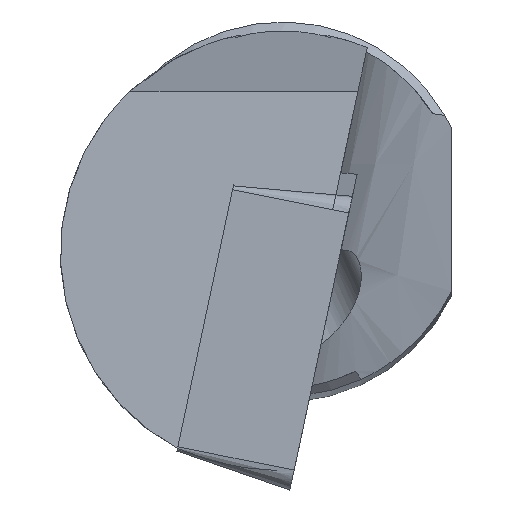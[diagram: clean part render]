
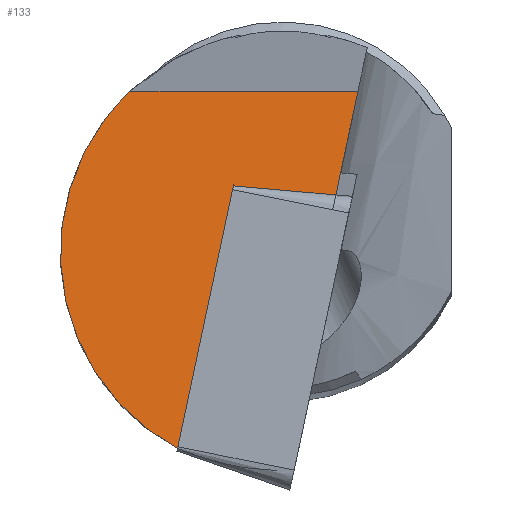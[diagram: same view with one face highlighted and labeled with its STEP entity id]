
A CAD part, top view. The second image highlights one B-rep face of the part: STEP entity #133.
In plain terms, the highlighted planar face has unit normal (0, 0.087, 0.996).
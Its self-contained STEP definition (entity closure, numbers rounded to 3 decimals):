
#47=ELLIPSE('',#538,5.58,5.558);
#49=ELLIPSE('',#542,4.764,4.746);
#133=ADVANCED_FACE('',(#173),#154,.F.);
#154=PLANE('',#543);
#173=FACE_OUTER_BOUND('',#196,.T.);
#196=EDGE_LOOP('',(#287,#288,#289,#290));
#287=ORIENTED_EDGE('',*,*,#428,.T.);
#288=ORIENTED_EDGE('',*,*,#431,.F.);
#289=ORIENTED_EDGE('',*,*,#439,.T.);
#290=ORIENTED_EDGE('',*,*,#440,.F.);
#374=VERTEX_POINT('',#791);
#375=VERTEX_POINT('',#792);
#376=VERTEX_POINT('',#808);
#382=VERTEX_POINT('',#823);
#428=EDGE_CURVE('',#374,#375,#47,.T.);
#431=EDGE_CURVE('',#376,#375,#478,.T.);
#439=EDGE_CURVE('',#376,#382,#485,.T.);
#440=EDGE_CURVE('',#374,#382,#49,.T.);
#478=LINE('',#807,#504);
#485=LINE('',#822,#511);
#504=VECTOR('',#635,1.);
#511=VECTOR('',#646,1.);
#538=AXIS2_PLACEMENT_3D('',#790,#631,#632);
#542=AXIS2_PLACEMENT_3D('',#824,#647,#648);
#543=AXIS2_PLACEMENT_3D('',#825,#649,#650);
#631=DIRECTION('',(0.,0.087,0.996));
#632=DIRECTION('',(0.,-0.996,0.087));
#635=DIRECTION('',(-0.207,-0.975,0.085));
#646=DIRECTION('',(-1.,0.,0.));
#647=DIRECTION('',(0.,-0.087,-0.996));
#648=DIRECTION('',(0.,-0.996,0.087));
#649=DIRECTION('',(0.,-0.087,-0.996));
#650=DIRECTION('',(0.,0.996,-0.087));
#790=CARTESIAN_POINT('',(0.,-0.043,-0.974));
#791=CARTESIAN_POINT('',(-2.245,-5.127,-0.529));
#792=CARTESIAN_POINT('',(-0.117,-5.6,-0.488));
#807=CARTESIAN_POINT('',(0.026,-4.926,-0.547));
#808=CARTESIAN_POINT('',(1.605,2.5,-1.197));
#822=CARTESIAN_POINT('',(-5.6,2.5,-1.197));
#823=CARTESIAN_POINT('',(-3.263,2.5,-1.197));
#824=CARTESIAN_POINT('',(0.,-0.946,-0.895));
#825=CARTESIAN_POINT('',(-5.6,-5.467,-0.5));
